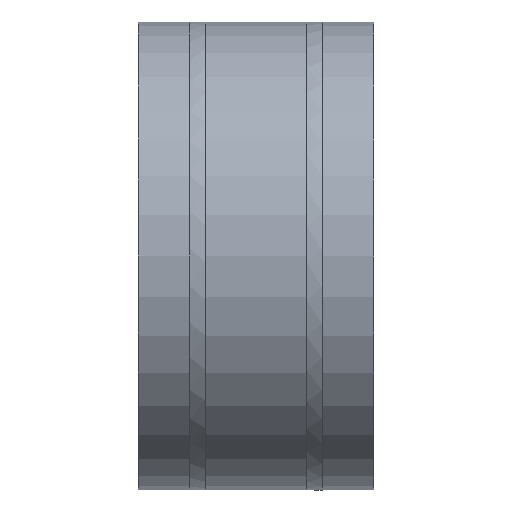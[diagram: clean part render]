
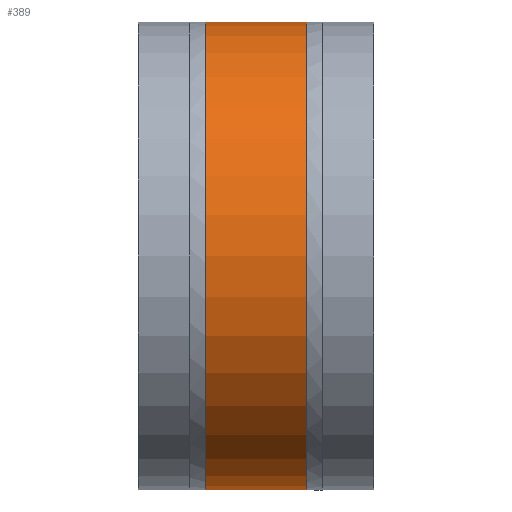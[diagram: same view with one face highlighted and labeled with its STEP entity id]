
A CAD part, front view. The second image highlights one B-rep face of the part: STEP entity #389.
In plain terms, the highlighted cylindrical face has radius 228.5 mm (diameter 457 mm), a partial arc.
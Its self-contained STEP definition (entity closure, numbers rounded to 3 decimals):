
#278 = ORIENTED_EDGE ( 'NONE', *, *, #1116, .F. ) ;
#281 = VERTEX_POINT ( 'NONE', #3146 ) ;
#355 = EDGE_LOOP ( 'NONE', ( #278, #3962, #3045, #2526 ) ) ;
#389 = ADVANCED_FACE ( 'NONE', ( #3964 ), #3965, .T. ) ;
#445 = EDGE_CURVE ( 'NONE', #1086, #8659, #4368, .T. ) ;
#1086 = VERTEX_POINT ( 'NONE', #8642 ) ;
#1116 = EDGE_CURVE ( 'NONE', #281, #1086, #8797, .T. ) ;
#2526 = ORIENTED_EDGE ( 'NONE', *, *, #445, .F. ) ;
#3045 = ORIENTED_EDGE ( 'NONE', *, *, #7754, .T. ) ;
#3146 = CARTESIAN_POINT ( 'NONE',  ( -6.466, 0., -228.5 ) ) ;
#3389 = VERTEX_POINT ( 'NONE', #11394 ) ;
#3580 = EDGE_CURVE ( 'NONE', #281, #3389, #11467, .T. ) ;
#3962 = ORIENTED_EDGE ( 'NONE', *, *, #3580, .T. ) ;
#3964 = FACE_OUTER_BOUND ( 'NONE', #355, .T. ) ;
#3965 = CYLINDRICAL_SURFACE ( 'NONE', #3966, 228.5 ) ;
#3966 = AXIS2_PLACEMENT_3D ( 'NONE', #3967, #3968, #3969 ) ;
#3967 = CARTESIAN_POINT ( 'NONE',  ( -85.418, 0., 0. ) ) ;
#3968 = DIRECTION ( 'NONE',  ( -1., 0., 0. ) ) ;
#3969 = DIRECTION ( 'NONE',  ( 0., 0., 1. ) ) ;
#4368 = CIRCLE ( 'NONE', #4369, 228.5 ) ;
#4369 = AXIS2_PLACEMENT_3D ( 'NONE', #4370, #4371, #4372 ) ;
#4370 = CARTESIAN_POINT ( 'NONE',  ( -105.505, 0., 0. ) ) ;
#4371 = DIRECTION ( 'NONE',  ( -1., 0., 0. ) ) ;
#4372 = DIRECTION ( 'NONE',  ( 0., 0., 1. ) ) ;
#6433 = LINE ( 'NONE', #6434, #6435 ) ;
#6434 = CARTESIAN_POINT ( 'NONE',  ( -85.418, 0., 228.5 ) ) ;
#6435 = VECTOR ( 'NONE', #6436, 1000. ) ;
#6436 = DIRECTION ( 'NONE',  ( -1., 0., 0. ) ) ;
#7479 = CARTESIAN_POINT ( 'NONE',  ( -105.505, 0., 228.5 ) ) ;
#7754 = EDGE_CURVE ( 'NONE', #3389, #8659, #6433, .T. ) ;
#8642 = CARTESIAN_POINT ( 'NONE',  ( -105.505, 0., -228.5 ) ) ;
#8659 = VERTEX_POINT ( 'NONE', #7479 ) ;
#8797 = LINE ( 'NONE', #8798, #8799 ) ;
#8798 = CARTESIAN_POINT ( 'NONE',  ( -85.418, 0., -228.5 ) ) ;
#8799 = VECTOR ( 'NONE', #8800, 1000. ) ;
#8800 = DIRECTION ( 'NONE',  ( -1., 0., 0. ) ) ;
#11394 = CARTESIAN_POINT ( 'NONE',  ( -6.466, 0., 228.5 ) ) ;
#11467 = CIRCLE ( 'NONE', #11468, 228.5 ) ;
#11468 = AXIS2_PLACEMENT_3D ( 'NONE', #11469, #11470, #11474 ) ;
#11469 = CARTESIAN_POINT ( 'NONE',  ( -6.466, 0., 0. ) ) ;
#11470 = DIRECTION ( 'NONE',  ( -1., 0., 0. ) ) ;
#11474 = DIRECTION ( 'NONE',  ( 0., 0., 1. ) ) ;
